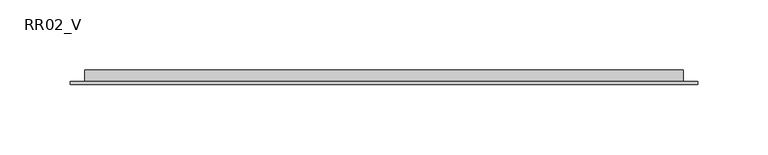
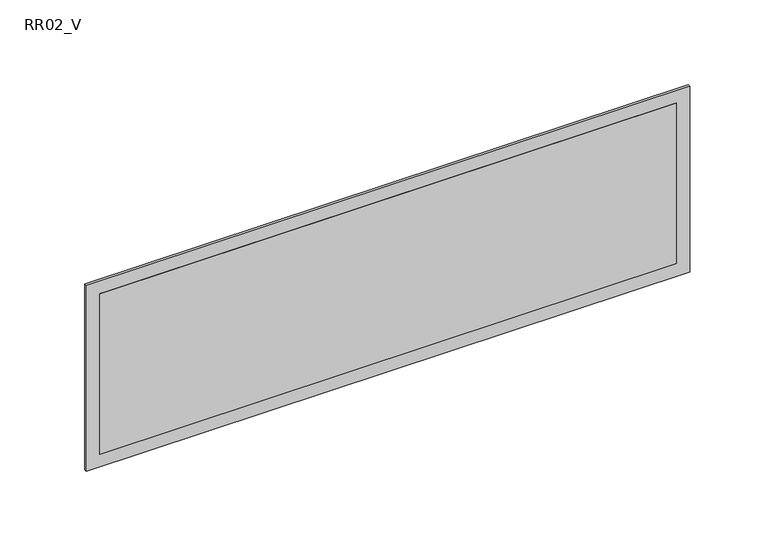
"""IFC4 building model written with IfcOpenShell, lengths in millimetres: air terminal geometry, ZYR_03.06.04.01 Reixa Paret Retorn : RR02_V."""

import ifcopenshell
import ifcopenshell.guid

model = None  # the IFC model being written
_history = None  # IfcOwnerHistory: only IFC2X3 demands one
_inside = {}  # id of a spatial element -> (the spatial element, [elements in it])
_under = {}  # id of a project, library or spatial element -> (it, [spatial elements below it])
_declared = {}  # id of a project -> (the project, [libraries it declares])
_typed = {}  # id of a type object -> (the type object, [elements of that type])
_made_of = {}  # id of a material, layer set ... -> (it, [elements and type objects made of it])


def new_model(schema):
    """Start an empty IFC model of exactly this schema.

    Asked for "IFC4X3", IfcOpenShell would pick the latest addendum, in which some entities
    have other attributes; the version numbers below select the first issue.
    IFC2X3 requires an IfcOwnerHistory on every rooted entity: one is made here for all.
    """
    global model, _history
    if schema == "IFC4X3":
        model = ifcopenshell.file(schema_version=(4, 3, 0, 0))
    else:
        model = ifcopenshell.file(schema=schema)
    _inside.clear()
    _under.clear()
    _declared.clear()
    _typed.clear()
    _made_of.clear()
    _history = None
    if model.schema == "IFC2X3":
        org = make("IfcOrganization", Name="unknown")
        user = make(
            "IfcPersonAndOrganization",
            ThePerson=make("IfcPerson", FamilyName="unknown"),
            TheOrganization=org,
        )
        app = make(
            "IfcApplication",
            ApplicationDeveloper=org,
            Version="unknown",
            ApplicationFullName="unknown",
            ApplicationIdentifier="unknown",
        )
        _history = make(
            "IfcOwnerHistory",
            OwningUser=user,
            OwningApplication=app,
            ChangeAction="ADDED",
            CreationDate=0,
        )
    return model


def make(cls, **values):
    """One entity of the class cls with the attributes given. An attribute that is None is left unset."""
    return model.create_entity(
        cls, **{name: value for name, value in values.items() if value is not None}
    )


def rooted(cls, **values):
    """An entity with a GlobalId (a new one), such as an element, a storey or a relation."""
    return make(cls, GlobalId=ifcopenshell.guid.new(), OwnerHistory=_history, **values)


def si_unit(unit_type, name, prefix=None):
    """IfcSIUnit, for example si_unit("LENGTHUNIT", "METRE", prefix="MILLI")."""
    return make("IfcSIUnit", UnitType=unit_type, Prefix=prefix, Name=name)


def assignment(units):
    """IfcUnitAssignment: the units of a project."""
    return None if units is None else make("IfcUnitAssignment", Units=units)


def point(xyz):
    """IfcCartesianPoint."""
    return None if xyz is None else make("IfcCartesianPoint", Coordinates=xyz)


def direction(xyz):
    """IfcDirection."""
    return None if xyz is None else make("IfcDirection", DirectionRatios=xyz)


def frame(location, z_axis=None, x_axis=None):
    """IfcAxis2Placement3D, a coordinate frame: its origin and axes. An axis left out is left unset."""
    return make(
        "IfcAxis2Placement3D",
        Location=point(location),
        Axis=direction(z_axis),
        RefDirection=direction(x_axis),
    )


def origin():
    """The frame at (0, 0, 0) with its axes left unset."""
    return frame((0.0, 0.0, 0.0))


def place(relative_to, where):
    """IfcLocalPlacement: puts the frame where relative to a parent placement (None: the world)."""
    return make(
        "IfcLocalPlacement", PlacementRelTo=relative_to, RelativePlacement=where
    )


def context(
    kind, dimensions, precision=None, world=None, true_north=None, identifier=None
):
    """IfcGeometricRepresentationContext, for example the 3D "Model" context."""
    return make(
        "IfcGeometricRepresentationContext",
        ContextIdentifier=identifier,
        ContextType=kind,
        CoordinateSpaceDimension=dimensions,
        Precision=precision,
        WorldCoordinateSystem=world,
        TrueNorth=true_north,
    )


def project(units=None, contexts=None):
    """IfcProject with its units and contexts."""
    return rooted(
        "IfcProject",
        Name="project",
        RepresentationContexts=contexts,
        UnitsInContext=assignment(units),
    )


def spatial(cls, under=None, at=None, **own):
    """A site, building, storey or space (cls), placed at a placement, below another one or the project."""
    s = rooted(cls, ObjectPlacement=at, **own)
    if under is not None:
        _under.setdefault(under.id(), (under, []))[1].append(s)
    return s


def polyline(points):
    """IfcPolyline through the points."""
    return make("IfcPolyline", Points=[point(p) for p in points])


def outline(outer, holes=None, kind="AREA"):
    """IfcArbitraryClosedProfileDef: a profile drawn as a closed curve; with holes, ...WithVoids."""
    if holes is None:
        return make("IfcArbitraryClosedProfileDef", ProfileType=kind, OuterCurve=outer)
    return make(
        "IfcArbitraryProfileDefWithVoids",
        ProfileType=kind,
        OuterCurve=outer,
        InnerCurves=holes,
    )


def extrude(swept, where, along, depth):
    """IfcExtrudedAreaSolid: the profile swept, set in the frame where, extruded along a direction by depth."""
    return make(
        "IfcExtrudedAreaSolid",
        SweptArea=swept,
        Position=where,
        ExtrudedDirection=direction(along),
        Depth=depth,
    )


def shape(context_of_items, identifier, shape_type, items):
    """IfcShapeRepresentation: the items that make up one representation, for example the "Body"."""
    return make(
        "IfcShapeRepresentation",
        ContextOfItems=context_of_items,
        RepresentationIdentifier=identifier,
        RepresentationType=shape_type,
        Items=items,
    )


def source(mapping_origin, context_of_items, identifier, shape_type, items):
    """IfcRepresentationMap: a shape defined once, which mapped items show again and again."""
    return make(
        "IfcRepresentationMap",
        MappingOrigin=mapping_origin,
        MappedRepresentation=shape(context_of_items, identifier, shape_type, items),
    )


def transform(
    local_origin,
    x_axis=None,
    y_axis=None,
    z_axis=None,
    scale=None,
    scale2=None,
    scale3=None,
    uniform=True,
):
    """IfcCartesianTransformationOperator3D, or its non-uniform kind. x_axis, y_axis, z_axis: its Axis1, 2, 3."""
    if uniform:
        return make(
            "IfcCartesianTransformationOperator3D",
            Axis1=direction(x_axis),
            Axis2=direction(y_axis),
            LocalOrigin=point(local_origin),
            Scale=scale,
            Axis3=direction(z_axis),
        )
    return make(
        "IfcCartesianTransformationOperator3DnonUniform",
        Axis1=direction(x_axis),
        Axis2=direction(y_axis),
        LocalOrigin=point(local_origin),
        Scale=scale,
        Axis3=direction(z_axis),
        Scale2=scale2,
        Scale3=scale3,
    )


def mapped(mapping_source, mapping_target):
    """IfcMappedItem: shows the shape of a source again, moved by a transform."""
    return make(
        "IfcMappedItem", MappingSource=mapping_source, MappingTarget=mapping_target
    )


def made_of(thing, what):
    """Note that an element or type object is made of a material, layer set ...; save() writes the relation."""
    if what is not None:
        _made_of.setdefault(what.id(), (what, []))[1].append(thing)
    return thing


def element(
    cls,
    number,
    at=None,
    inside=None,
    cuts=None,
    type_object=None,
    material=None,
    context=None,
    identifier="Body",
    shape_type=None,
    held_by="IfcProductDefinitionShape",
    body=None,
    shapes=None,
    **own,
):
    """One element of the class cls, such as IfcWall. Its Tag is "e" and its number.

    at: its placement. inside: the storey or other place that contains it. cuts: it is an
    opening in that element (IfcRelVoidsElement). A single representation is given by context,
    identifier, shape_type and body (its items); several are given by shapes. held_by: the class
    of the entity that holds the representations. save() writes the other relations.
    """
    e = rooted(cls, Tag="e%d" % number, ObjectPlacement=at, **own)
    if body is not None:
        shapes = [shape(context, identifier, shape_type, body)]
    if shapes is not None:
        e.Representation = make(held_by, Representations=shapes)
    if inside is not None:
        _inside.setdefault(inside.id(), (inside, []))[1].append(e)
    if cuts is not None:
        rooted(
            "IfcRelVoidsElement", RelatingBuildingElement=cuts, RelatedOpeningElement=e
        )
    if type_object is not None:
        _typed.setdefault(type_object.id(), (type_object, []))[1].append(e)
    return made_of(e, material)


def aggregate(whole, parts):
    """IfcRelAggregates: a whole, such as a stair, and the parts it consists of."""
    return rooted("IfcRelAggregates", RelatingObject=whole, RelatedObjects=parts)


def save(model, path):
    """Write the relations noted so far, then the file.

    IfcRelAggregates (storeys below a building ...), IfcRelContainedInSpatialStructure (elements
    in a storey), IfcRelDefinesByType, IfcRelAssociatesMaterial and IfcRelDeclares: one each for
    every whole, place, type object, material and project.
    """
    for whole, parts in _under.values():
        aggregate(whole, parts)
    for where, things in _inside.values():
        rooted(
            "IfcRelContainedInSpatialStructure",
            RelatedElements=things,
            RelatingStructure=where,
        )
    for kind, things in _typed.values():
        rooted("IfcRelDefinesByType", RelatedObjects=things, RelatingType=kind)
    for what, things in _made_of.values():
        rooted("IfcRelAssociatesMaterial", RelatedObjects=things, RelatingMaterial=what)
    for by, libraries in _declared.values():
        rooted("IfcRelDeclares", RelatingContext=by, RelatedDefinitions=libraries)
    model.write(path)


def rr02_v_0c3a1da6(model_context):
    return source(origin(), model_context, "Body", "SweptSolid", [
        extrude(outline(polyline([(212.5, 0.0), (-212.5, 0.0), (-212.5, 10.0), (212.5, 10.0), (212.5, 0.0)])), frame((0.0, 0.0, -62.5), z_axis=(0.0, 0.0, 1.0), x_axis=(1.0, 0.0, 0.0)), (0.0, 0.0, 1.0), 125.0),
        extrude(outline(polyline([(72.5, 222.5), (72.5, -222.5), (-72.5, -222.5), (-72.5, 222.5), (72.5, 222.5)]), holes=[polyline([(62.5, 212.5), (-62.5, 212.5), (-62.5, -212.5), (62.5, -212.5), (62.5, 212.5)])]), frame((0.0, 0.0, 0.0), z_axis=(0.0, 1.0, 0.0), x_axis=(0.0, 0.0, 1.0)), (0.0, 0.0, 1.0), 2.0),
    ])


if __name__ == "__main__":
    model = new_model("IFC4")
    model_context = context("Model", 3, world=origin())
    ifc_project = project(units=[si_unit("LENGTHUNIT", "METRE", prefix="MILLI")], contexts=[model_context])
    site = spatial("IfcSite", under=ifc_project)
    building = spatial("IfcBuilding", under=site)
    placement = place(None, origin())
    rr02_v_shape = rr02_v_0c3a1da6(model_context)
    element("IfcAirTerminal", 1, ObjectType="ZYR_03.06.04.01 Reixa Paret Retorn : RR02_V", at=placement, inside=building, context=model_context, shape_type="MappedRepresentation", body=[
        mapped(rr02_v_shape, transform((0.0, 0.0, 0.0), x_axis=(1.0, 0.0, 0.0), y_axis=(0.0, 1.0, 0.0), z_axis=(0.0, 0.0, 1.0))),
    ])
    save(model, "model.ifc")
